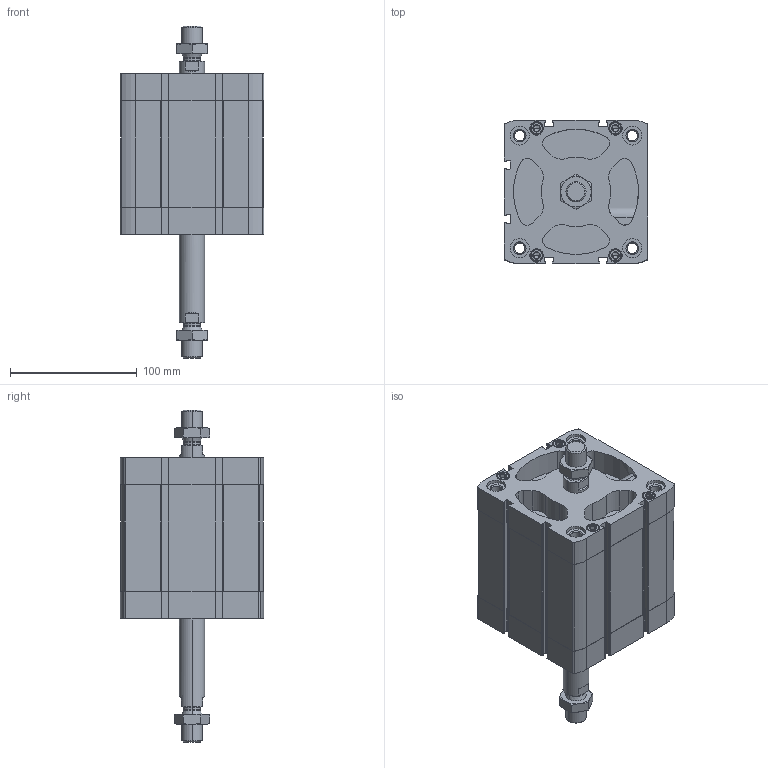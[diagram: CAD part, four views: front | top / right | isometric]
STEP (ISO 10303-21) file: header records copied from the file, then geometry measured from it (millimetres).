
FILE_DESCRIPTION (( 'STEP AP203' ), '1' );
FILE_NAME ('CCN100-60-P.STEP', '2020-06-22T19:11:33', ( '' ), ( '' ), 'SwSTEP 2.0', 'SolidWorks 2019', '' );
FILE_SCHEMA (( 'CONFIG_CONTROL_DESIGN' ));
Length unit declared in the file: millimetre
Products named in the file (1): CCN100-60-P
Bounding box: 113.5 x 113.5 x 262.4 mm (x, y, z)
Volume: 1006305.4 mm3; surface area: 212759 mm2
Topology: 4 solids, 4 shells, 685 faces, 1757 edges, 1118 vertices
Faces by surface type: plane 305, cylinder 280, cone 92, torus 8
Entity records: 22642 total; most frequent: CARTESIAN_POINT 5549, DIRECTION 3721, ORIENTED_EDGE 3482, EDGE_CURVE 1741, AXIS2_PLACEMENT_3D 1392, VERTEX_POINT 1118, LINE 937, VECTOR 937
